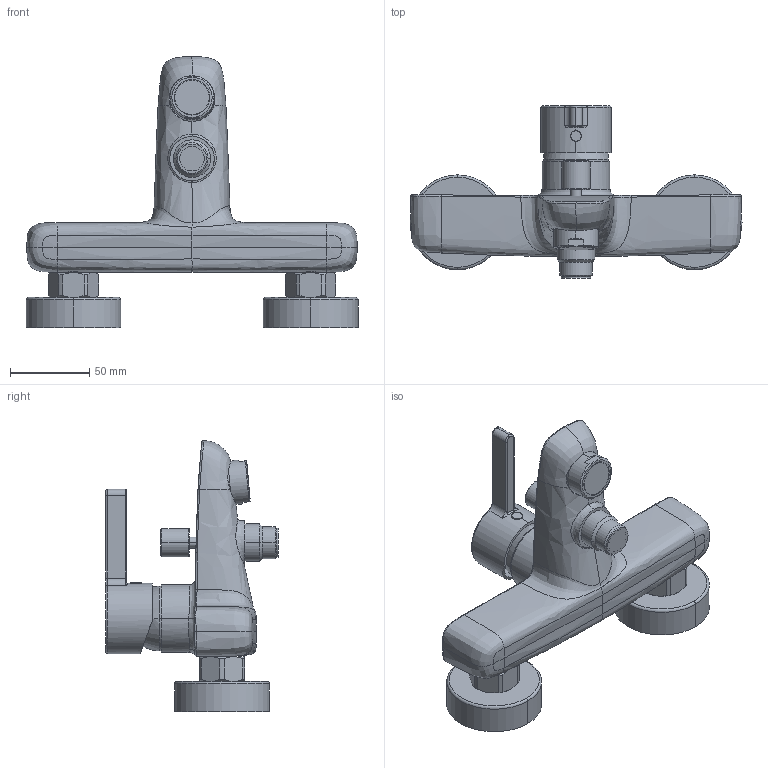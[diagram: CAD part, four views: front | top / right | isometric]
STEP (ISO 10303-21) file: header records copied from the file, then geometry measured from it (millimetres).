
FILE_DESCRIPTION((''),'2;1');
FILE_NAME('FIT-BATH-150_SW0001','2021-07-23T09:21:21',('KS894'),(''),'CREO PARAMETRIC BY PTC INC, 2018500','CREO PARAMETRIC BY PTC INC, 2018500','');
FILE_SCHEMA(('CONFIG_CONTROL_DESIGN'));
Length unit declared in the file: millimetre
Products named in the file (1): FIT-BATH-150_SW0001
Bounding box: 210 x 109 x 171.43 mm (x, y, z)
Volume: 539222.9 mm3; surface area: 89078.9 mm2
Topology: 3 solids, 6 shells, 329 faces, 790 edges, 488 vertices
Faces by surface type: plane 103, cylinder 91, cone 60, bspline 55, torus 20
Entity records: 21898 total; most frequent: CARTESIAN_POINT 14650, ORIENTED_EDGE 1570, DIRECTION 1383, EDGE_CURVE 785, AXIS2_PLACEMENT_3D 556, VERTEX_POINT 488, EDGE_LOOP 349, FACE_OUTER_BOUND 329
